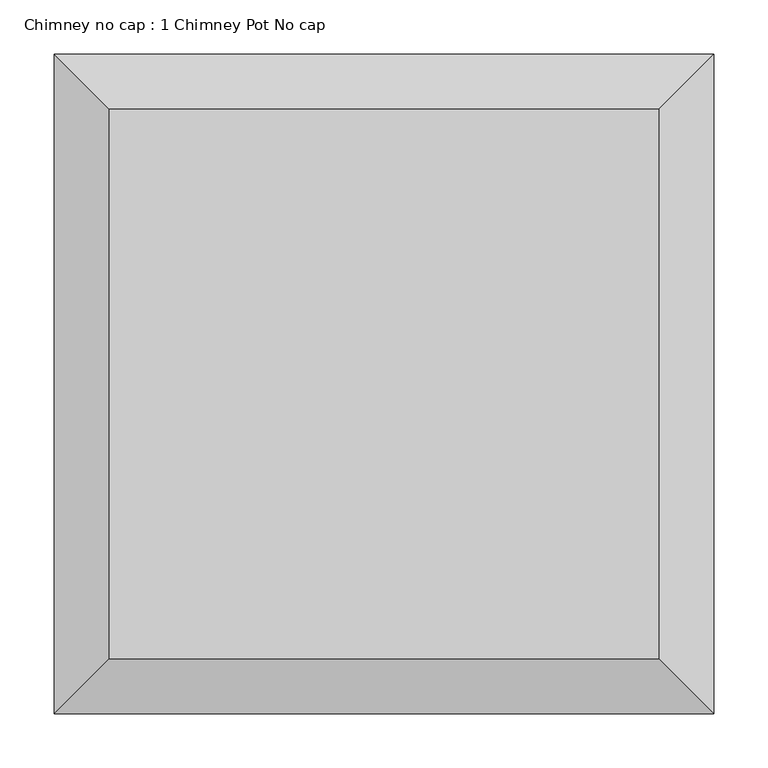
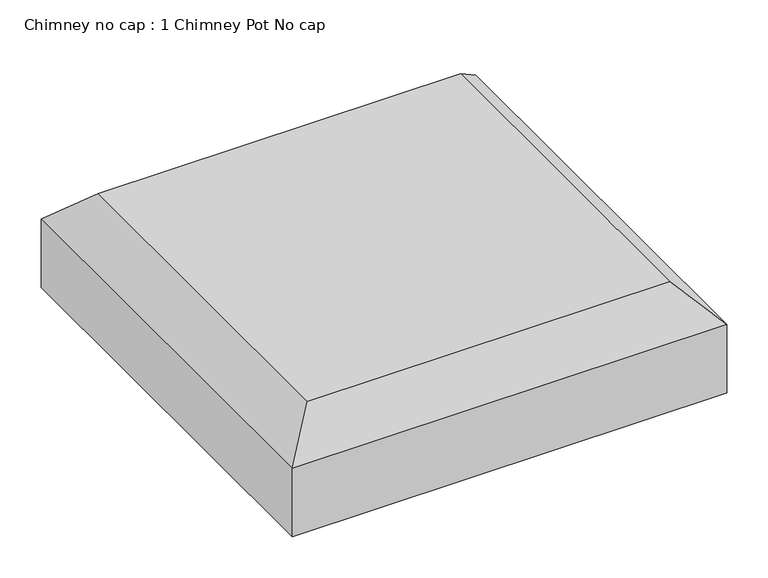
"""IFC4 building model written with IfcOpenShell, lengths in millimetres: proxy geometry, Chimney no cap : 1 Chimney Pot No cap."""

from ifc_helpers import new_model, si_unit, origin, place, context, project, spatial, faceted_brep, source, transform, mapped, element, save


def chimney_no_cap_1_chimney_pot_no_cap_27f6cb3c(model_context):
    return source(origin(), model_context, "Body", "Brep", [
        faceted_brep([(-254.0, -254.0, 152.4), (254.0, -254.0, 152.4), (254.0, 254.0, 152.4), (-254.0, 254.0, 152.4), (-304.8, -304.8, 0.0), (-304.8, 304.8, 0.0), (304.8, 304.8, 0.0), (304.8, -304.8, 0.0), (304.8, -304.8, 101.6), (-304.8, -304.8, 101.6), (304.8, 304.8, 101.6), (-304.8, 304.8, 101.6)], [[[0, 1, 2, 3]], [[4, 5, 6, 7]], [[4, 7, 8, 9]], [[7, 6, 10, 8]], [[6, 5, 11, 10]], [[5, 4, 9, 11]], [[8, 1, 0, 9]], [[1, 8, 10, 2]], [[2, 10, 11, 3]], [[9, 0, 3, 11]]]),
    ])


if __name__ == "__main__":
    model = new_model("IFC4")
    model_context = context("Model", 3, world=origin())
    ifc_project = project(units=[si_unit("LENGTHUNIT", "METRE", prefix="MILLI")], contexts=[model_context])
    site = spatial("IfcSite", under=ifc_project)
    building = spatial("IfcBuilding", under=site)
    placement = place(None, origin())
    chimney_no_cap_1_chimney_pot_no_cap_shape = chimney_no_cap_1_chimney_pot_no_cap_27f6cb3c(model_context)
    element("IfcBuildingElementProxy", 1, Name="Chimney no cap : 1 Chimney Pot No cap", ObjectType="Chimney no cap : 1 Chimney Pot No cap", at=placement, inside=building, context=model_context, shape_type="MappedRepresentation", body=[
        mapped(chimney_no_cap_1_chimney_pot_no_cap_shape, transform((0.0, 0.0, 0.0), x_axis=(1.0, 0.0, 0.0), y_axis=(0.0, 1.0, 0.0), z_axis=(0.0, 0.0, 1.0))),
    ])
    save(model, "model.ifc")
